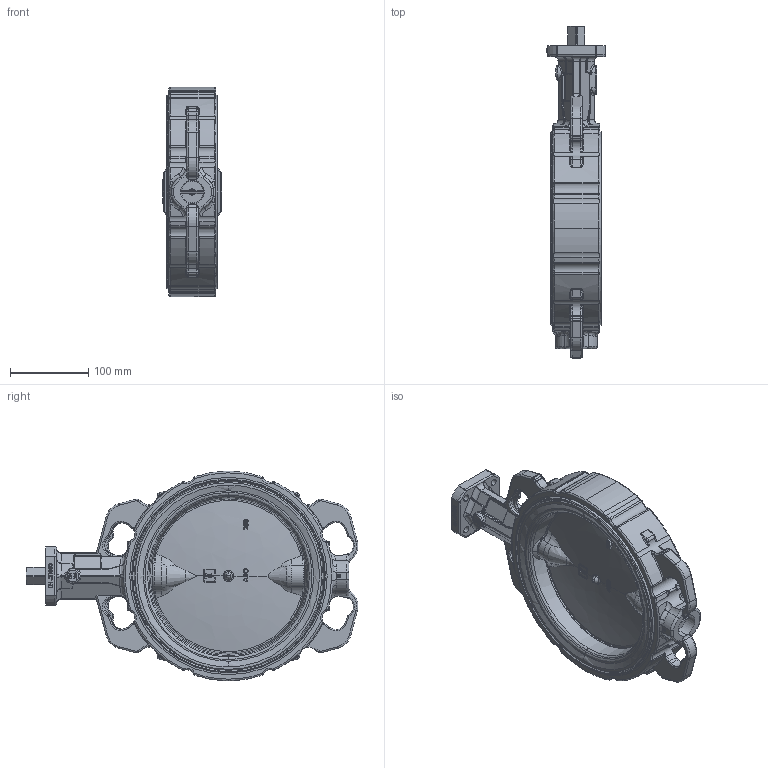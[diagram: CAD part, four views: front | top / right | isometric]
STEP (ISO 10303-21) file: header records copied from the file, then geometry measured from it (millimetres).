
FILE_DESCRIPTION (( 'STEP AP203' ), '1' );
FILE_NAME ('4831062_Axel-Larsson.step', '2023-10-04T13:16:54', ( '' ), ( '' ), 'SwSTEP 2.0', 'SolidWorks 2014', '' );
FILE_SCHEMA (( 'CONFIG_CONTROL_DESIGN' ));
Products named in the file (1): 4831062_Axel-Larsson
Bounding box: 76 x 424.7 x 268 mm (x, y, z)
Volume: 2249915.9 mm3; surface area: 284094.2 mm2
Topology: 5 solids, 13 shells, 1589 faces, 4045 edges, 2459 vertices
Faces by surface type: bspline 712, cylinder 420, plane 367, cone 90
Entity records: 78033 total; most frequent: CARTESIAN_POINT 44829, ORIENTED_EDGE 7970, DIRECTION 5563, EDGE_CURVE 3985, VERTEX_POINT 2459, AXIS2_PLACEMENT_3D 2119, EDGE_LOOP 1664, ADVANCED_FACE 1589
